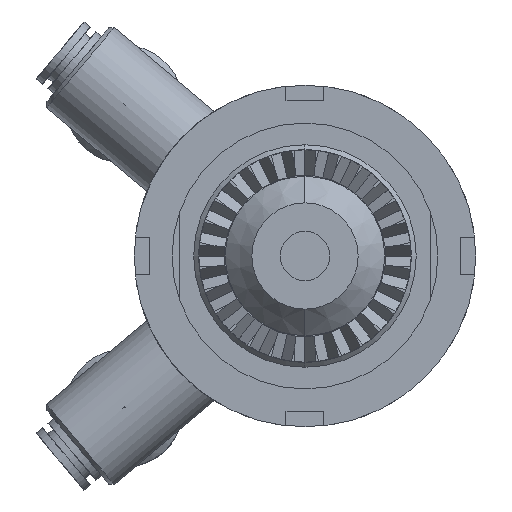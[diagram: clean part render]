
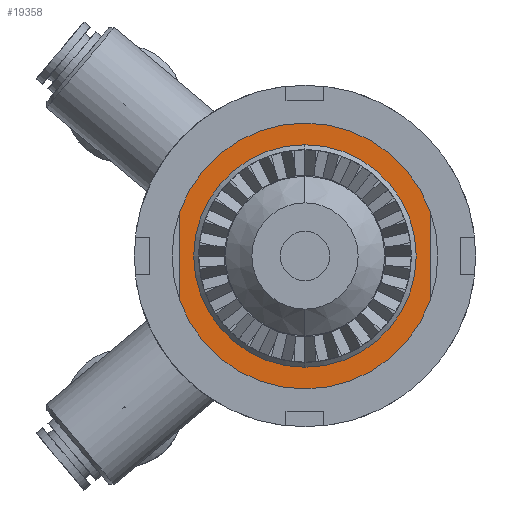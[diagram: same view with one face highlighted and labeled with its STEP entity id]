
A CAD part, front view. The second image highlights one B-rep face of the part: STEP entity #19358.
In plain terms, the highlighted planar face has unit normal (0, -1, 0).
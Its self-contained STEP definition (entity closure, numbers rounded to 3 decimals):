
#4561 = DIRECTION ( 'NONE',  ( 0., 0., 1. ) ) ;
#4562 = DIRECTION ( 'NONE',  ( 0., 1., 0. ) ) ;
#4563 = CARTESIAN_POINT ( 'NONE',  ( 0., 0., 0. ) ) ;
#4564 = AXIS2_PLACEMENT_3D ( 'NONE', #4563, #4562, #4561 ) ;
#4569 = CIRCLE ( 'NONE', #4564, 19. ) ;
#4599 = DIRECTION ( 'NONE',  ( 0., 0., 1. ) ) ;
#4600 = DIRECTION ( 'NONE',  ( 0., 1., 0. ) ) ;
#4601 = CARTESIAN_POINT ( 'NONE',  ( 0., 0., 0. ) ) ;
#4602 = AXIS2_PLACEMENT_3D ( 'NONE', #4601, #4600, #4599 ) ;
#4689 = CIRCLE ( 'NONE', #4602, 9.5 ) ;
#5111 = CARTESIAN_POINT ( 'NONE',  ( 16.5, 0., -9.421 ) ) ;
#5128 = CARTESIAN_POINT ( 'NONE',  ( 0., 0., -9.5 ) ) ;
#5167 = CARTESIAN_POINT ( 'NONE',  ( 16.5, 0., 9.421 ) ) ;
#5168 = DIRECTION ( 'NONE',  ( 0., 0., 1. ) ) ;
#5169 = DIRECTION ( 'NONE',  ( 0., 1., 0. ) ) ;
#5170 = CARTESIAN_POINT ( 'NONE',  ( 0., 0., 0. ) ) ;
#5171 = AXIS2_PLACEMENT_3D ( 'NONE', #5170, #5169, #5168 ) ;
#5172 = CIRCLE ( 'NONE', #5171, 19. ) ;
#5260 = CARTESIAN_POINT ( 'NONE',  ( -16.5, 0., -9.421 ) ) ;
#5261 = CARTESIAN_POINT ( 'NONE',  ( -16.5, 0., 9.421 ) ) ;
#5262 = DIRECTION ( 'NONE',  ( 0., 0., -1. ) ) ;
#5263 = VECTOR ( 'NONE', #5262, 1000. ) ;
#5264 = CARTESIAN_POINT ( 'NONE',  ( -16.5, 0., 0. ) ) ;
#5268 = LINE ( 'NONE', #5264, #5263 ) ;
#5307 = CIRCLE ( 'NONE', #5399, 9.5 ) ;
#5378 = CARTESIAN_POINT ( 'NONE',  ( 0., 0., -19. ) ) ;
#5394 = CARTESIAN_POINT ( 'NONE',  ( 0., 0., 19. ) ) ;
#5395 = CARTESIAN_POINT ( 'NONE',  ( 0., 0., 9.5 ) ) ;
#5396 = DIRECTION ( 'NONE',  ( 0., 0., 1. ) ) ;
#5397 = DIRECTION ( 'NONE',  ( 0., 1., 0. ) ) ;
#5398 = CARTESIAN_POINT ( 'NONE',  ( 0., 0., 0. ) ) ;
#5399 = AXIS2_PLACEMENT_3D ( 'NONE', #5398, #5397, #5396 ) ;
#5488 = DIRECTION ( 'NONE',  ( 0., 0., 1. ) ) ;
#5549 = VECTOR ( 'NONE', #5488, 1000. ) ;
#5550 = CARTESIAN_POINT ( 'NONE',  ( 16.5, 0., 0. ) ) ;
#5551 = LINE ( 'NONE', #5550, #5549 ) ;
#10376 = DIRECTION ( 'NONE',  ( 0., -1., 0. ) ) ;
#10377 = AXIS2_PLACEMENT_3D ( 'NONE', #10378, #10376, #10434 ) ;
#10378 = CARTESIAN_POINT ( 'NONE',  ( -9.5, 0., 0. ) ) ;
#10379 = PLANE ( 'NONE',  #10377 ) ;
#10380 = FACE_OUTER_BOUND ( 'NONE', #19065, .T. ) ;
#10381 = FACE_BOUND ( 'NONE', #19336, .T. ) ;
#10382 = DIRECTION ( 'NONE',  ( 0., 0., 1. ) ) ;
#10383 = DIRECTION ( 'NONE',  ( 0., 1., 0. ) ) ;
#10384 = CARTESIAN_POINT ( 'NONE',  ( 0., 0., 0. ) ) ;
#10385 = AXIS2_PLACEMENT_3D ( 'NONE', #10384, #10383, #10382 ) ;
#10386 = CIRCLE ( 'NONE', #10385, 19. ) ;
#10399 = DIRECTION ( 'NONE',  ( 0., 0., 1. ) ) ;
#10400 = DIRECTION ( 'NONE',  ( 0., 1., 0. ) ) ;
#10401 = CARTESIAN_POINT ( 'NONE',  ( 0., 0., 0. ) ) ;
#10402 = AXIS2_PLACEMENT_3D ( 'NONE', #10401, #10400, #10399 ) ;
#10403 = CIRCLE ( 'NONE', #10402, 19. ) ;
#10434 = DIRECTION ( 'NONE',  ( 0., 0., -1. ) ) ;
#18582 = EDGE_CURVE ( 'NONE', #18927, #18908, #4689, .T. ) ;
#18644 = EDGE_CURVE ( 'NONE', #18918, #18970, #4569, .T. ) ;
#18877 = EDGE_CURVE ( 'NONE', #18960, #18878, #5172, .T. ) ;
#18878 = VERTEX_POINT ( 'NONE', #5167 ) ;
#18908 = VERTEX_POINT ( 'NONE', #5128 ) ;
#18918 = VERTEX_POINT ( 'NONE', #5111 ) ;
#18926 = EDGE_CURVE ( 'NONE', #18908, #18927, #5307, .T. ) ;
#18927 = VERTEX_POINT ( 'NONE', #5395 ) ;
#18960 = VERTEX_POINT ( 'NONE', #5394 ) ;
#18970 = VERTEX_POINT ( 'NONE', #5378 ) ;
#18997 = ORIENTED_EDGE ( 'NONE', *, *, #18644, .F. ) ;
#18998 = ORIENTED_EDGE ( 'NONE', *, *, #19046, .T. ) ;
#19008 = ORIENTED_EDGE ( 'NONE', *, *, #18877, .F. ) ;
#19011 = EDGE_CURVE ( 'NONE', #19012, #19019, #5268, .T. ) ;
#19012 = VERTEX_POINT ( 'NONE', #5261 ) ;
#19019 = VERTEX_POINT ( 'NONE', #5260 ) ;
#19046 = EDGE_CURVE ( 'NONE', #18918, #18878, #5551, .T. ) ;
#19064 = ORIENTED_EDGE ( 'NONE', *, *, #18926, .T. ) ;
#19065 = EDGE_LOOP ( 'NONE', ( #19339, #19354, #18997, #18998, #19008, #19311 ) ) ;
#19068 = ORIENTED_EDGE ( 'NONE', *, *, #18582, .T. ) ;
#19311 = ORIENTED_EDGE ( 'NONE', *, *, #19345, .F. ) ;
#19336 = EDGE_LOOP ( 'NONE', ( #19068, #19064 ) ) ;
#19339 = ORIENTED_EDGE ( 'NONE', *, *, #19011, .T. ) ;
#19345 = EDGE_CURVE ( 'NONE', #19012, #18960, #10403, .T. ) ;
#19354 = ORIENTED_EDGE ( 'NONE', *, *, #19355, .F. ) ;
#19355 = EDGE_CURVE ( 'NONE', #18970, #19019, #10386, .T. ) ;
#19358 = ADVANCED_FACE ( 'NONE', ( #10381, #10380 ), #10379, .T. ) ;
